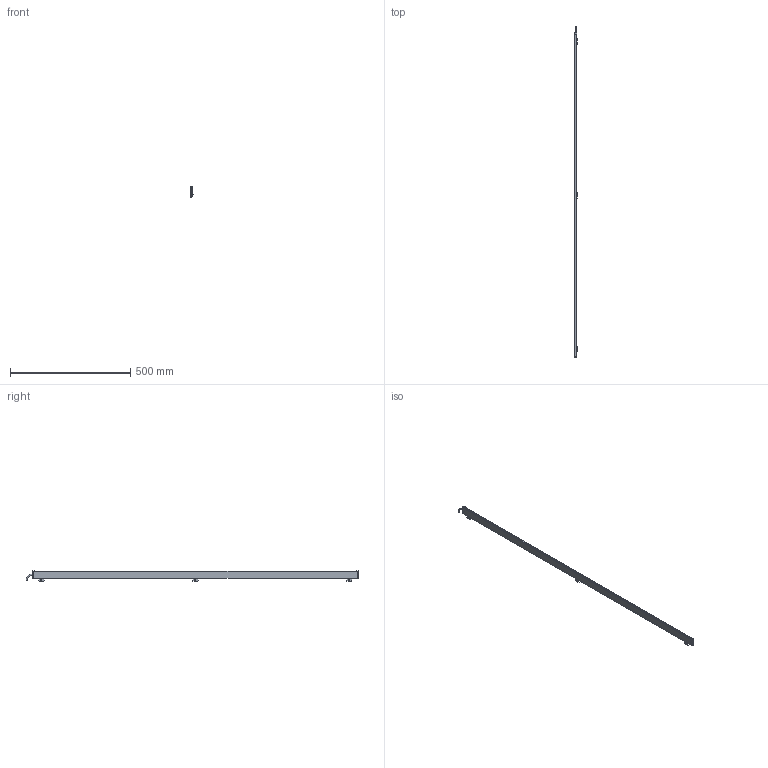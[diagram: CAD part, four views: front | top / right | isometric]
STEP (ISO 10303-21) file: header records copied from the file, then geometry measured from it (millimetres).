
FILE_DESCRIPTION (( 'STEP AP214' ), '1' );
FILE_NAME ('ILG-N-K1-1350mm.STEP', '2017-07-10T13:32:07', ( '' ), ( '' ), 'SwSTEP 2.0', 'SolidWorks 2016', '' );
FILE_SCHEMA (( 'AUTOMOTIVE_DESIGN' ));
Length unit declared in the file: millimetre
Products named in the file (1): ILG-N-K1-1350mm
Bounding box: 10.23 x 1378.25 x 42.41 mm (x, y, z)
Volume: 153178.1 mm3; surface area: 227056.2 mm2
Topology: 12 solids, 12 shells, 532 faces, 1348 edges, 836 vertices
Faces by surface type: plane 296, cylinder 162, cone 64, torus 10
Entity records: 21865 total; most frequent: CARTESIAN_POINT 2865, DIRECTION 2794, ORIENTED_EDGE 2680, EDGE_CURVE 1340, AXIS2_PLACEMENT_3D 973, VECTOR 848, LINE 848, VERTEX_POINT 836
